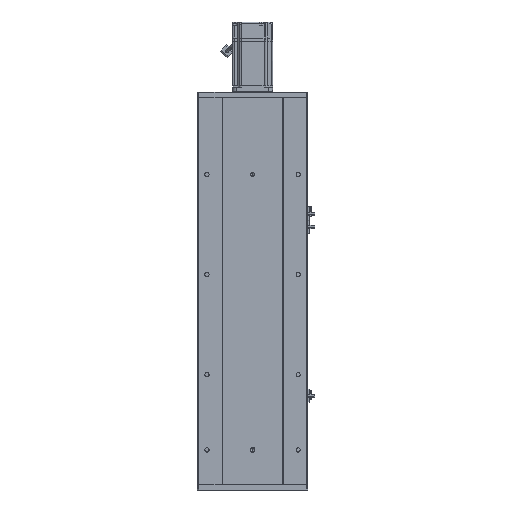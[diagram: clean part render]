
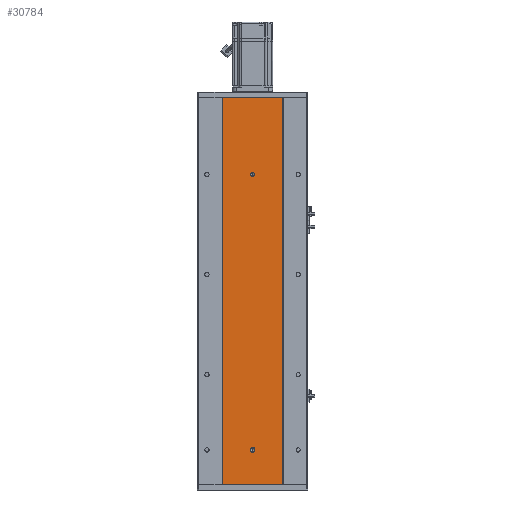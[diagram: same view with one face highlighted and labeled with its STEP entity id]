
A CAD part, front view. The second image highlights one B-rep face of the part: STEP entity #30784.
In plain terms, the highlighted planar face has unit normal (0, -1, 0).
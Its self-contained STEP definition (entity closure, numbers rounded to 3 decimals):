
#1185 = CARTESIAN_POINT ( 'NONE',  ( 60., 0., 0. ) ) ;
#2656 = DIRECTION ( 'NONE',  ( 0., 0., -1. ) ) ;
#3520 = LINE ( 'NONE', #53558, #10019 ) ;
#3535 = DIRECTION ( 'NONE',  ( 0., 0., -1. ) ) ;
#3776 = CIRCLE ( 'NONE', #22569, 4. ) ;
#4110 = CARTESIAN_POINT ( 'NONE',  ( 0., 0., 624. ) ) ;
#4523 = VECTOR ( 'NONE', #57908, 1000. ) ;
#5441 = CARTESIAN_POINT ( 'NONE',  ( -60., 0., 774. ) ) ;
#6358 = LINE ( 'NONE', #46278, #31931 ) ;
#7080 = CARTESIAN_POINT ( 'NONE',  ( -60., 0., 774. ) ) ;
#7267 = AXIS2_PLACEMENT_3D ( 'NONE', #24365, #44396, #3535 ) ;
#9282 = DIRECTION ( 'NONE',  ( 0., -1., 0. ) ) ;
#10019 = VECTOR ( 'NONE', #13182, 1000. ) ;
#10915 = EDGE_CURVE ( 'NONE', #52084, #53323, #29433, .T. ) ;
#11623 = VERTEX_POINT ( 'NONE', #4110 ) ;
#12472 = DIRECTION ( 'NONE',  ( 0., 1., 0. ) ) ;
#12563 = CARTESIAN_POINT ( 'NONE',  ( 4., 0., 71.5 ) ) ;
#13182 = DIRECTION ( 'NONE',  ( 0., 0., -1. ) ) ;
#16044 = CARTESIAN_POINT ( 'NONE',  ( -4., 0., 68.5 ) ) ;
#17324 = LINE ( 'NONE', #25443, #4523 ) ;
#17484 = VECTOR ( 'NONE', #61592, 1000. ) ;
#17885 = EDGE_CURVE ( 'NONE', #61590, #59977, #3520, .T. ) ;
#18322 = ORIENTED_EDGE ( 'NONE', *, *, #43169, .F. ) ;
#19875 = CIRCLE ( 'NONE', #20669, 4. ) ;
#20669 = AXIS2_PLACEMENT_3D ( 'NONE', #59408, #9282, #49161 ) ;
#21049 = DIRECTION ( 'NONE',  ( 0., 0., -1. ) ) ;
#21612 = VERTEX_POINT ( 'NONE', #34363 ) ;
#22471 = ORIENTED_EDGE ( 'NONE', *, *, #41119, .F. ) ;
#22569 = AXIS2_PLACEMENT_3D ( 'NONE', #54733, #40007, #25312 ) ;
#22958 = PLANE ( 'NONE',  #36304 ) ;
#24365 = CARTESIAN_POINT ( 'NONE',  ( 0., 0., 71.5 ) ) ;
#25312 = DIRECTION ( 'NONE',  ( 0., 0., -1. ) ) ;
#25443 = CARTESIAN_POINT ( 'NONE',  ( -60., 0., 774. ) ) ;
#26152 = ORIENTED_EDGE ( 'NONE', *, *, #35242, .F. ) ;
#26562 = ORIENTED_EDGE ( 'NONE', *, *, #47286, .F. ) ;
#27301 = CARTESIAN_POINT ( 'NONE',  ( 0., 0., 616. ) ) ;
#27357 = CIRCLE ( 'NONE', #48298, 4. ) ;
#27739 = ORIENTED_EDGE ( 'NONE', *, *, #43043, .F. ) ;
#27993 = ORIENTED_EDGE ( 'NONE', *, *, #53160, .T. ) ;
#29433 = CIRCLE ( 'NONE', #7267, 4. ) ;
#29916 = VERTEX_POINT ( 'NONE', #43674 ) ;
#30114 = DIRECTION ( 'NONE',  ( 0., -1., 0. ) ) ;
#30784 = ADVANCED_FACE ( 'NONE', ( #41309, #50058, #36506 ), #22958, .F. ) ;
#31049 = CARTESIAN_POINT ( 'NONE',  ( 0., 0., 64.5 ) ) ;
#31133 = CARTESIAN_POINT ( 'NONE',  ( -60., 0., 774. ) ) ;
#31313 = CARTESIAN_POINT ( 'NONE',  ( 4., 0., 71.5 ) ) ;
#31564 = CARTESIAN_POINT ( 'NONE',  ( 60., 0., 774. ) ) ;
#31931 = VECTOR ( 'NONE', #35796, 1000. ) ;
#32240 = EDGE_CURVE ( 'NONE', #33127, #36978, #27357, .T. ) ;
#32417 = LINE ( 'NONE', #5441, #45975 ) ;
#32561 = EDGE_LOOP ( 'NONE', ( #27993, #45566, #53971, #34034 ) ) ;
#33127 = VERTEX_POINT ( 'NONE', #16044 ) ;
#33677 = ORIENTED_EDGE ( 'NONE', *, *, #10915, .F. ) ;
#34034 = ORIENTED_EDGE ( 'NONE', *, *, #47981, .T. ) ;
#34363 = CARTESIAN_POINT ( 'NONE',  ( 4., 0., 68.5 ) ) ;
#35242 = EDGE_CURVE ( 'NONE', #36978, #21612, #19875, .T. ) ;
#35796 = DIRECTION ( 'NONE',  ( 1., 0., 0. ) ) ;
#36304 = AXIS2_PLACEMENT_3D ( 'NONE', #7080, #12472, #59016 ) ;
#36425 = VERTEX_POINT ( 'NONE', #31133 ) ;
#36506 = FACE_OUTER_BOUND ( 'NONE', #32561, .T. ) ;
#36802 = LINE ( 'NONE', #56446, #64652 ) ;
#36978 = VERTEX_POINT ( 'NONE', #31049 ) ;
#37329 = AXIS2_PLACEMENT_3D ( 'NONE', #65526, #30114, #45262 ) ;
#39340 = VERTEX_POINT ( 'NONE', #27301 ) ;
#40007 = DIRECTION ( 'NONE',  ( 0., -1., 0. ) ) ;
#41119 = EDGE_CURVE ( 'NONE', #53323, #33127, #36802, .T. ) ;
#41174 = DIRECTION ( 'NONE',  ( 0., 0., -1. ) ) ;
#41309 = FACE_BOUND ( 'NONE', #55469, .T. ) ;
#42845 = EDGE_LOOP ( 'NONE', ( #22471, #33677, #18322, #26152, #60449 ) ) ;
#43043 = EDGE_CURVE ( 'NONE', #39340, #11623, #3776, .T. ) ;
#43169 = EDGE_CURVE ( 'NONE', #21612, #52084, #50204, .T. ) ;
#43674 = CARTESIAN_POINT ( 'NONE',  ( -60., 0., 0. ) ) ;
#43958 = CARTESIAN_POINT ( 'NONE',  ( 0., 0., 68.5 ) ) ;
#44396 = DIRECTION ( 'NONE',  ( 0., -1., 0. ) ) ;
#45262 = DIRECTION ( 'NONE',  ( 0., 0., -1. ) ) ;
#45566 = ORIENTED_EDGE ( 'NONE', *, *, #17885, .F. ) ;
#45975 = VECTOR ( 'NONE', #41174, 1000. ) ;
#46278 = CARTESIAN_POINT ( 'NONE',  ( -60., 0., 0. ) ) ;
#47286 = EDGE_CURVE ( 'NONE', #11623, #39340, #61175, .T. ) ;
#47477 = EDGE_CURVE ( 'NONE', #36425, #61590, #17324, .T. ) ;
#47981 = EDGE_CURVE ( 'NONE', #36425, #29916, #32417, .T. ) ;
#48298 = AXIS2_PLACEMENT_3D ( 'NONE', #43958, #64430, #2656 ) ;
#49161 = DIRECTION ( 'NONE',  ( 0., 0., -1. ) ) ;
#50058 = FACE_BOUND ( 'NONE', #42845, .T. ) ;
#50204 = LINE ( 'NONE', #31313, #17484 ) ;
#52084 = VERTEX_POINT ( 'NONE', #12563 ) ;
#53160 = EDGE_CURVE ( 'NONE', #29916, #59977, #6358, .T. ) ;
#53323 = VERTEX_POINT ( 'NONE', #62934 ) ;
#53558 = CARTESIAN_POINT ( 'NONE',  ( 60., 0., 774. ) ) ;
#53971 = ORIENTED_EDGE ( 'NONE', *, *, #47477, .F. ) ;
#54733 = CARTESIAN_POINT ( 'NONE',  ( 0., 0., 620. ) ) ;
#55469 = EDGE_LOOP ( 'NONE', ( #27739, #26562 ) ) ;
#56446 = CARTESIAN_POINT ( 'NONE',  ( -4., 0., 71.5 ) ) ;
#57908 = DIRECTION ( 'NONE',  ( 1., 0., 0. ) ) ;
#59016 = DIRECTION ( 'NONE',  ( 0., 0., 1. ) ) ;
#59408 = CARTESIAN_POINT ( 'NONE',  ( 0., 0., 68.5 ) ) ;
#59977 = VERTEX_POINT ( 'NONE', #1185 ) ;
#60449 = ORIENTED_EDGE ( 'NONE', *, *, #32240, .F. ) ;
#61175 = CIRCLE ( 'NONE', #37329, 4. ) ;
#61590 = VERTEX_POINT ( 'NONE', #31564 ) ;
#61592 = DIRECTION ( 'NONE',  ( 0., 0., 1. ) ) ;
#62934 = CARTESIAN_POINT ( 'NONE',  ( -4., 0., 71.5 ) ) ;
#64430 = DIRECTION ( 'NONE',  ( 0., -1., 0. ) ) ;
#64652 = VECTOR ( 'NONE', #21049, 1000. ) ;
#65526 = CARTESIAN_POINT ( 'NONE',  ( 0., 0., 620. ) ) ;
